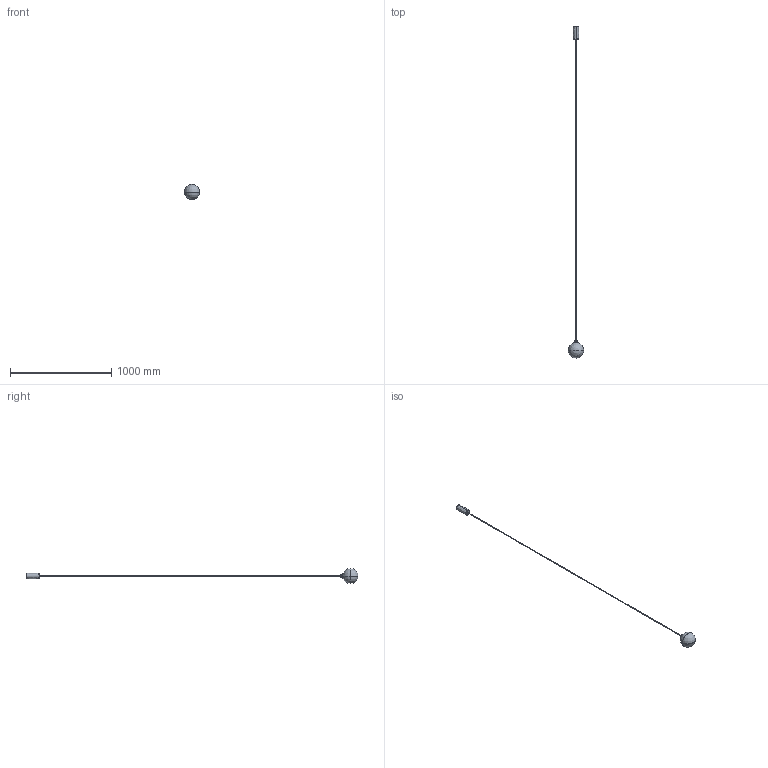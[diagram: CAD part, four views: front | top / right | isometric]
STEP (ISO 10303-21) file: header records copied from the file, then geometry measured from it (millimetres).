
FILE_DESCRIPTION(/* description */ (''),/* implementation_level */ '2;1');
FILE_NAME(/* name */ 'L115__~2',/* time_stamp */ '2024-07-02T17:47:38+02:00',/* author */ (''),/* organization */ (''),/* preprocessor_version */ 'ST-DEVELOPER v16.5',/* originating_system */ '',/* authorisation */ '');
FILE_SCHEMA (('AUTOMOTIVE_DESIGN'));
Length unit declared in the file: millimetre
Products named in the file (1): Document
Bounding box: 150 x 3273.83 x 150 mm (x, y, z)
Volume: 317111.6 mm3; surface area: 298841.9 mm2
Topology: 18 solids, 18 shells, 465 faces, 1113 edges, 677 vertices
Faces by surface type: bspline 325, plane 140
Entity records: 42325 total; most frequent: CARTESIAN_POINT 35749, ORIENTED_EDGE 2190, EDGE_CURVE 1095, VERTEX_POINT 677, B_SPLINE_CURVE_WITH_KNOTS 593, EDGE_LOOP 514, ADVANCED_FACE 465, FACE_OUTER_BOUND 465
